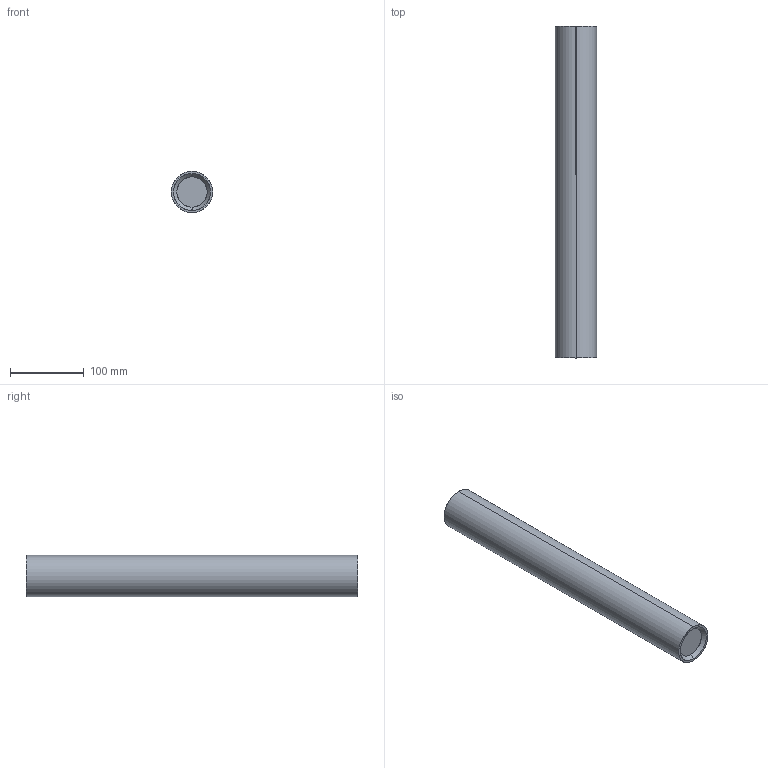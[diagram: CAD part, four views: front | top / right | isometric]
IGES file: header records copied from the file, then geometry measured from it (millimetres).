
Start section: SolidWorks IGES file using analytic representation for surfaces
Global section: file name: C:\Users\danielet\Desktop\3D ANDONI\ZOOM-P37642-3D\ZOOM-P37642-3D.IGS; native system: SolidWorks 2018; preprocessor: SolidWorks 2018; author: danielet; date: 210127.075608; units: millimetre
Bounding box: 56 x 450 x 56 mm (x, y, z)
Surface area: 84412.4 mm2 (no closed solid volume)
Topology: 0 solids, 0 shells, 7 faces, 272 edges, 272 vertices
Faces by surface type: revolution 4, bspline 3
